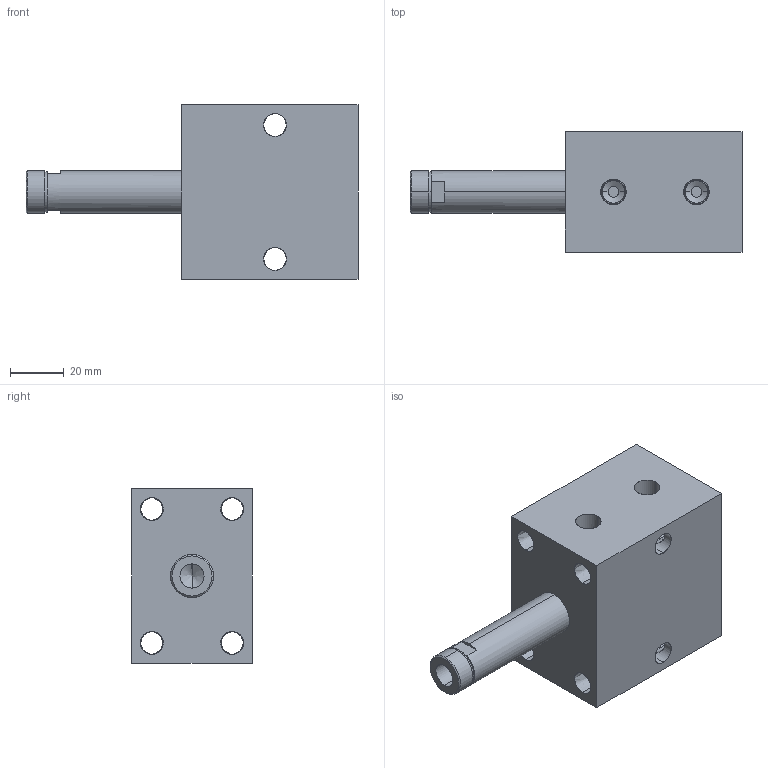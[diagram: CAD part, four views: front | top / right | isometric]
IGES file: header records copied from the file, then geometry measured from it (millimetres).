
Start section: SolidWorks IGES file using analytic representation for surfaces
Global section: file name: C:\Documents and Settings\rajib\Desktop\Rajib\BLOCK CYLINDER HYDRAULIC\0201-0206\IGS 0201-0206\0206.IGS; native system: SolidWorks 2007; preprocessor: SolidWorks 2007; author: rajib; date: 110121.094459; units: millimetre
Bounding box: 124 x 45 x 65 mm (x, y, z)
Surface area: 32991.4 mm2 (no closed solid volume)
Topology: 0 solids, 0 shells, 80 faces, 1752 edges, 1750 vertices
Faces by surface type: revolution 58, bspline 22
